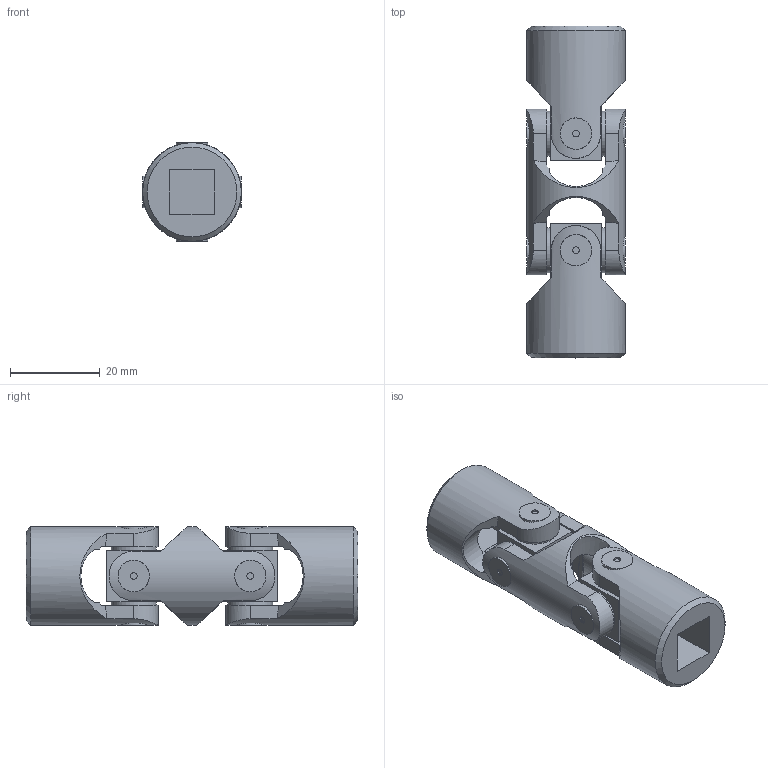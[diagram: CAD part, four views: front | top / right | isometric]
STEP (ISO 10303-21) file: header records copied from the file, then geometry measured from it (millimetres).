
FILE_DESCRIPTION(/* description */ (''),/* implementation_level */ '2;1');
FILE_NAME(/* name */ '\\SRV2016\Societa\Stefano\Disegni 3D\00Catalogo 3D\02Doppi GD-GBD\SG0D102Q.stp',/* time_stamp */ '2021-11-22T17:04:20+01:00',/* author */ ('acquisti'),/* organization */ (''),/* preprocessor_version */ 'ST-DEVELOPER v15.6',/* originating_system */ 'Autodesk Inventor 2015',/* authorisation */ '');
FILE_SCHEMA (('AUTOMOTIVE_DESIGN { 1 0 10303 214 3 1 1 }'));
Length unit declared in the file: millimetre
Products named in the file (4): 03G MOD; 03G SFE; 03G MOQ; Ø22_03GD-00_SG0D1000
Assembly tree (5 placements, depth 2):
  Ø22_03GD-00_SG0D1000
    03G MOD
    03G SFE  x2
    03G MOQ  x2
Bounding box: 22 x 74 x 22 mm (x, y, z)
Volume: 17968 mm3; surface area: 10193.9 mm2
Topology: 5 solids, 5 shells, 160 faces, 382 edges, 252 vertices
Faces by surface type: plane 78, cylinder 52, cone 26, torus 4
Full cylindrical faces by diameter (mm): 1.5 x8, 10 x8, 11.5 x1, 22 x3
Entity records: 3660 total; most frequent: CARTESIAN_POINT 1302, ORIENTED_EDGE 470, DIRECTION 450, EDGE_CURVE 235, AXIS2_PLACEMENT_3D 193, VERTEX_POINT 165, EDGE_LOOP 140, FACE_OUTER_BOUND 106
